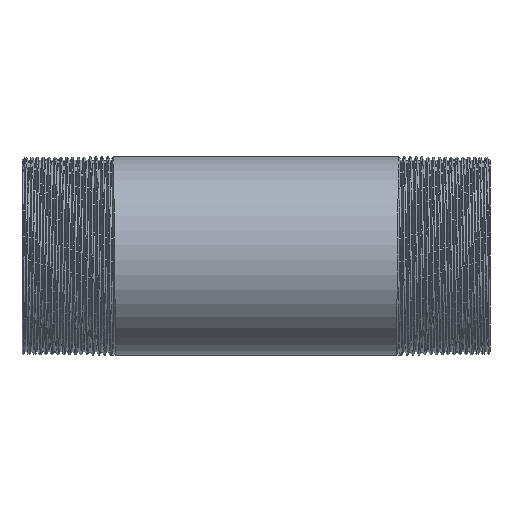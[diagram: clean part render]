
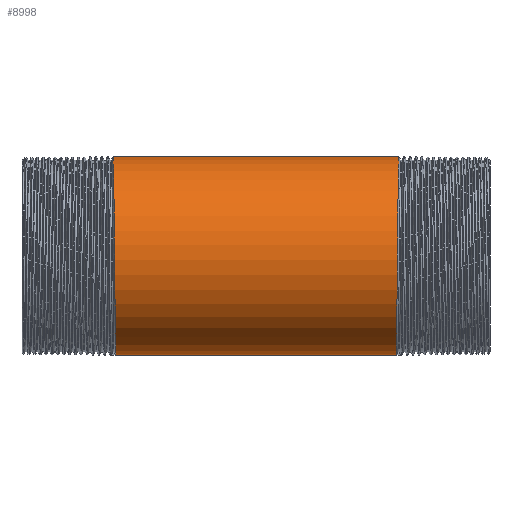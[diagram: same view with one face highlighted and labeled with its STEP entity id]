
A CAD part, front view. The second image highlights one B-rep face of the part: STEP entity #8998.
In plain terms, the highlighted cylindrical face has radius 21.2 mm (diameter 42.4 mm), a partial arc.
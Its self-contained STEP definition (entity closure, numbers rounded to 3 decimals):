
#48 = CARTESIAN_POINT ( 'NONE',  ( -29.906, 0., -21.2 ) ) ;
#250 = CARTESIAN_POINT ( 'NONE',  ( 29.906, 0., -21.2 ) ) ;
#360 = VERTEX_POINT ( 'NONE', #250 ) ;
#491 = DIRECTION ( 'NONE',  ( -1., 0., 0. ) ) ;
#1245 = CARTESIAN_POINT ( 'NONE',  ( -30.531, 0., 21.2 ) ) ;
#1816 = EDGE_CURVE ( 'NONE', #13851, #1887, #9009, .T. ) ;
#1887 = VERTEX_POINT ( 'NONE', #11684 ) ;
#2096 = CARTESIAN_POINT ( 'NONE',  ( -149.494, 0., 0. ) ) ;
#2159 = CARTESIAN_POINT ( 'NONE',  ( -29.984, -8.781, -21.2 ) ) ;
#2443 = CARTESIAN_POINT ( 'NONE',  ( -149.494, 0., 21.2 ) ) ;
#2535 = CARTESIAN_POINT ( 'NONE',  ( -149.494, 0., -21.2 ) ) ;
#2830 = AXIS2_PLACEMENT_3D ( 'NONE', #2096, #9183, #8373 ) ;
#3158 = CYLINDRICAL_SURFACE ( 'NONE', #2830, 21.2 ) ;
#3271 = ORIENTED_EDGE ( 'NONE', *, *, #7258, .T. ) ;
#3748 =( BOUNDED_CURVE ( )  B_SPLINE_CURVE ( 2, ( #48, #2159, #4490, #4351, #9857, #10837, #8857, #4282, #1245 ),
 .UNSPECIFIED., .F., .F. ) 
 B_SPLINE_CURVE_WITH_KNOTS ( ( 3, 2, 2, 2, 3 ),
 ( 0., 0.006, 0.013, 0.019, 0.025 ),
 .UNSPECIFIED. ) 
 CURVE ( )  GEOMETRIC_REPRESENTATION_ITEM ( )  RATIONAL_B_SPLINE_CURVE ( ( 1., 0.924, 1., 0.924, 1., 0.924, 1., 0.924, 1. ) ) 
 REPRESENTATION_ITEM ( '' )  );
#4106 = CARTESIAN_POINT ( 'NONE',  ( 29.906, 0., -21.2 ) ) ;
#4282 = CARTESIAN_POINT ( 'NONE',  ( -30.453, -8.781, 21.2 ) ) ;
#4296 =( BOUNDED_CURVE ( )  B_SPLINE_CURVE ( 2, ( #4106, #6085, #7080, #11380, #9259, #13573, #11446, #10450, #11516 ),
 .UNSPECIFIED., .F., .T. ) 
 B_SPLINE_CURVE_WITH_KNOTS ( ( 3, 2, 2, 2, 3 ),
 ( 0., 0.006, 0.013, 0.019, 0.025 ),
 .UNSPECIFIED. ) 
 CURVE ( )  GEOMETRIC_REPRESENTATION_ITEM ( )  RATIONAL_B_SPLINE_CURVE ( ( 1., 0.924, 1., 0.924, 1., 0.924, 1., 0.924, 1. ) ) 
 REPRESENTATION_ITEM ( '' )  );
#4323 = VERTEX_POINT ( 'NONE', #10327 ) ;
#4351 = CARTESIAN_POINT ( 'NONE',  ( -30.141, -21.2, -8.781 ) ) ;
#4490 = CARTESIAN_POINT ( 'NONE',  ( -30.063, -14.991, -14.991 ) ) ;
#4624 = VECTOR ( 'NONE', #491, 1000. ) ;
#5373 = EDGE_CURVE ( 'NONE', #4323, #1887, #3748, .T. ) ;
#6085 = CARTESIAN_POINT ( 'NONE',  ( 29.984, -8.781, -21.2 ) ) ;
#6779 = EDGE_LOOP ( 'NONE', ( #10797, #3271, #8826, #10430 ) ) ;
#7080 = CARTESIAN_POINT ( 'NONE',  ( 30.063, -14.991, -14.991 ) ) ;
#7258 = EDGE_CURVE ( 'NONE', #360, #13851, #4296, .T. ) ;
#8108 = VECTOR ( 'NONE', #11055, 1000. ) ;
#8373 = DIRECTION ( 'NONE',  ( 0., 0., 1. ) ) ;
#8826 = ORIENTED_EDGE ( 'NONE', *, *, #1816, .T. ) ;
#8857 = CARTESIAN_POINT ( 'NONE',  ( -30.375, -14.991, 14.991 ) ) ;
#8998 = ADVANCED_FACE ( 'NONE', ( #10562 ), #3158, .T. ) ;
#9009 = LINE ( 'NONE', #2443, #8108 ) ;
#9123 = CARTESIAN_POINT ( 'NONE',  ( 30.531, 0., 21.2 ) ) ;
#9183 = DIRECTION ( 'NONE',  ( -1., 0., 0. ) ) ;
#9259 = CARTESIAN_POINT ( 'NONE',  ( 30.219, -21.2, 0. ) ) ;
#9857 = CARTESIAN_POINT ( 'NONE',  ( -30.219, -21.2, 0. ) ) ;
#10210 = EDGE_CURVE ( 'NONE', #360, #4323, #13200, .T. ) ;
#10327 = CARTESIAN_POINT ( 'NONE',  ( -29.906, 0., -21.2 ) ) ;
#10430 = ORIENTED_EDGE ( 'NONE', *, *, #5373, .F. ) ;
#10450 = CARTESIAN_POINT ( 'NONE',  ( 30.453, -8.781, 21.2 ) ) ;
#10562 = FACE_OUTER_BOUND ( 'NONE', #6779, .T. ) ;
#10797 = ORIENTED_EDGE ( 'NONE', *, *, #10210, .F. ) ;
#10837 = CARTESIAN_POINT ( 'NONE',  ( -30.297, -21.2, 8.781 ) ) ;
#11055 = DIRECTION ( 'NONE',  ( -1., 0., 0. ) ) ;
#11380 = CARTESIAN_POINT ( 'NONE',  ( 30.141, -21.2, -8.781 ) ) ;
#11446 = CARTESIAN_POINT ( 'NONE',  ( 30.375, -14.991, 14.991 ) ) ;
#11516 = CARTESIAN_POINT ( 'NONE',  ( 30.531, 0., 21.2 ) ) ;
#11684 = CARTESIAN_POINT ( 'NONE',  ( -30.531, 0., 21.2 ) ) ;
#13200 = LINE ( 'NONE', #2535, #4624 ) ;
#13573 = CARTESIAN_POINT ( 'NONE',  ( 30.297, -21.2, 8.781 ) ) ;
#13851 = VERTEX_POINT ( 'NONE', #9123 ) ;
